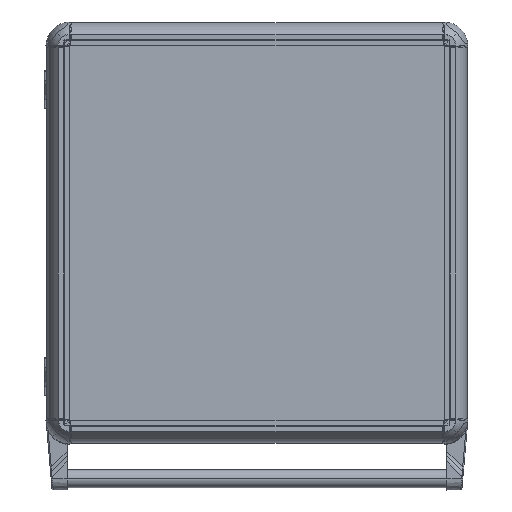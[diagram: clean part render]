
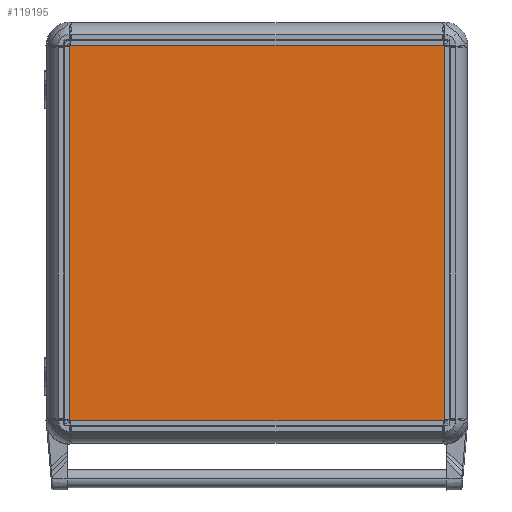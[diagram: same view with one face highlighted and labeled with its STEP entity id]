
A CAD part, top view. The second image highlights one B-rep face of the part: STEP entity #119195.
In plain terms, the highlighted planar face has unit normal (0, 0, 1).
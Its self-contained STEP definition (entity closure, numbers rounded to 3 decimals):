
#8195 = ORIENTED_EDGE ( 'NONE', *, *, #241513, .T. ) ;
#10519 = DIRECTION ( 'NONE',  ( 1., 0., 0. ) ) ;
#18025 = LINE ( 'NONE', #183755, #71733 ) ;
#19878 = VERTEX_POINT ( 'NONE', #257631 ) ;
#29642 = PLANE ( 'NONE',  #145141 ) ;
#36880 = LINE ( 'NONE', #102104, #110515 ) ;
#48629 = FACE_OUTER_BOUND ( 'NONE', #105371, .T. ) ;
#68856 = VERTEX_POINT ( 'NONE', #268071 ) ;
#71733 = VECTOR ( 'NONE', #185078, 1000. ) ;
#76546 = LINE ( 'NONE', #134040, #127616 ) ;
#102104 = CARTESIAN_POINT ( 'NONE',  ( -200., 200., 2. ) ) ;
#105371 = EDGE_LOOP ( 'NONE', ( #8195, #222533, #153247, #236823 ) ) ;
#107495 = CARTESIAN_POINT ( 'NONE',  ( -200., 200., 2. ) ) ;
#110515 = VECTOR ( 'NONE', #180845, 1000. ) ;
#115495 = CARTESIAN_POINT ( 'NONE',  ( -200., 200., 2. ) ) ;
#119195 = ADVANCED_FACE ( 'NONE', ( #48629 ), #29642, .T. ) ;
#125154 = LINE ( 'NONE', #107495, #215382 ) ;
#127616 = VECTOR ( 'NONE', #160688, 1000. ) ;
#131561 = CARTESIAN_POINT ( 'NONE',  ( 0., 0., 2. ) ) ;
#134040 = CARTESIAN_POINT ( 'NONE',  ( 200., 200., 2. ) ) ;
#145141 = AXIS2_PLACEMENT_3D ( 'NONE', #131561, #195249, #10519 ) ;
#153247 = ORIENTED_EDGE ( 'NONE', *, *, #203135, .T. ) ;
#160688 = DIRECTION ( 'NONE',  ( 0., 1., 0. ) ) ;
#179103 = VERTEX_POINT ( 'NONE', #191198 ) ;
#180845 = DIRECTION ( 'NONE',  ( -1., 0., 0. ) ) ;
#183755 = CARTESIAN_POINT ( 'NONE',  ( -200., -200., 2. ) ) ;
#185078 = DIRECTION ( 'NONE',  ( 1., 0., 0. ) ) ;
#190480 = EDGE_CURVE ( 'NONE', #19878, #179103, #18025, .T. ) ;
#191198 = CARTESIAN_POINT ( 'NONE',  ( 200., -200., 2. ) ) ;
#195249 = DIRECTION ( 'NONE',  ( 0., 0., 1. ) ) ;
#203135 = EDGE_CURVE ( 'NONE', #205428, #19878, #125154, .T. ) ;
#205428 = VERTEX_POINT ( 'NONE', #115495 ) ;
#215382 = VECTOR ( 'NONE', #232223, 1000. ) ;
#222533 = ORIENTED_EDGE ( 'NONE', *, *, #254479, .T. ) ;
#232223 = DIRECTION ( 'NONE',  ( 0., -1., 0. ) ) ;
#236823 = ORIENTED_EDGE ( 'NONE', *, *, #190480, .T. ) ;
#241513 = EDGE_CURVE ( 'NONE', #179103, #68856, #76546, .T. ) ;
#254479 = EDGE_CURVE ( 'NONE', #68856, #205428, #36880, .T. ) ;
#257631 = CARTESIAN_POINT ( 'NONE',  ( -200., -200., 2. ) ) ;
#268071 = CARTESIAN_POINT ( 'NONE',  ( 200., 200., 2. ) ) ;
